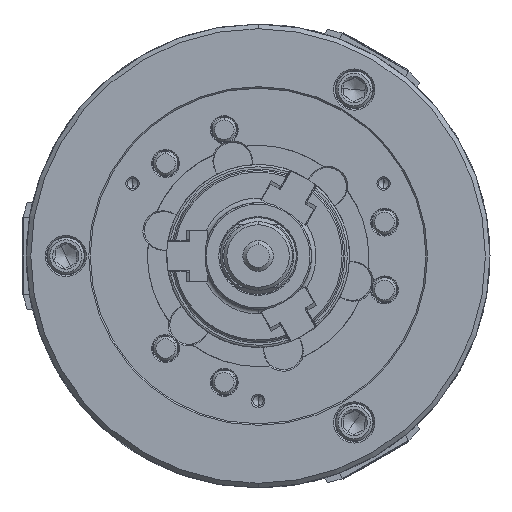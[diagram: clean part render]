
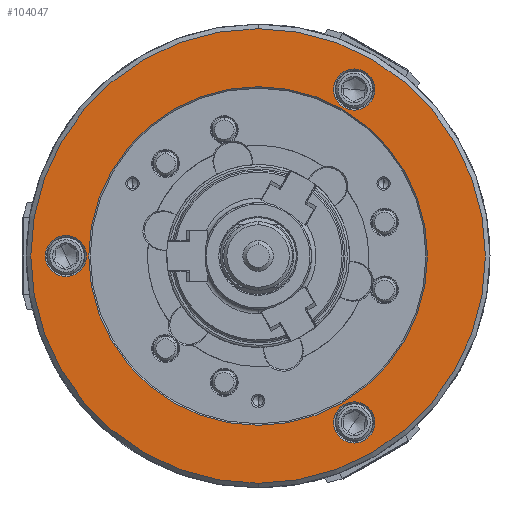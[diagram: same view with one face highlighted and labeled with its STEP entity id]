
A CAD part, left-side view. The second image highlights one B-rep face of the part: STEP entity #104047.
In plain terms, the highlighted planar face has unit normal (-1, 0, 0).
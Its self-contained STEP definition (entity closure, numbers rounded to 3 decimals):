
#5730 = DIRECTION ( 'NONE',  ( 1., 0., 0. ) ) ;
#6084 = CIRCLE ( 'NONE', #12175, 13.5 ) ;
#6868 = FACE_BOUND ( 'NONE', #37549, .T. ) ;
#7015 = VERTEX_POINT ( 'NONE', #10057 ) ;
#9715 = VERTEX_POINT ( 'NONE', #41193 ) ;
#9966 = DIRECTION ( 'NONE',  ( 0., 0., -1. ) ) ;
#10057 = CARTESIAN_POINT ( 'NONE',  ( -106., -63., 95.619 ) ) ;
#10451 = AXIS2_PLACEMENT_3D ( 'NONE', #76447, #18895, #66308 ) ;
#11210 = DIRECTION ( 'NONE',  ( 1., 0., 0. ) ) ;
#11828 = DIRECTION ( 'NONE',  ( 0., 0., -1. ) ) ;
#12175 = AXIS2_PLACEMENT_3D ( 'NONE', #43099, #52576, #91190 ) ;
#14555 = CARTESIAN_POINT ( 'NONE',  ( -106., 0., -149. ) ) ;
#16998 = VERTEX_POINT ( 'NONE', #14555 ) ;
#18895 = DIRECTION ( 'NONE',  ( 1., 0., 0. ) ) ;
#18937 = CIRCLE ( 'NONE', #89665, 111. ) ;
#20281 = AXIS2_PLACEMENT_3D ( 'NONE', #107385, #49792, #67521 ) ;
#21748 = DIRECTION ( 'NONE',  ( 1., 0., 0. ) ) ;
#22091 = AXIS2_PLACEMENT_3D ( 'NONE', #37840, #76409, #47928 ) ;
#23633 = EDGE_LOOP ( 'NONE', ( #83461, #113835 ) ) ;
#25178 = CARTESIAN_POINT ( 'NONE',  ( -106., 0., 0. ) ) ;
#25844 = FACE_BOUND ( 'NONE', #23633, .T. ) ;
#26118 = AXIS2_PLACEMENT_3D ( 'NONE', #32674, #11210, #11828 ) ;
#27027 = VERTEX_POINT ( 'NONE', #75349 ) ;
#30090 = CIRCLE ( 'NONE', #22091, 149. ) ;
#30312 = CIRCLE ( 'NONE', #62617, 13.5 ) ;
#30327 = AXIS2_PLACEMENT_3D ( 'NONE', #62725, #51992, #90607 ) ;
#32674 = CARTESIAN_POINT ( 'NONE',  ( -106., -63., -109.119 ) ) ;
#33477 = DIRECTION ( 'NONE',  ( 1., 0., 0. ) ) ;
#36365 = EDGE_CURVE ( 'NONE', #27027, #104130, #52413, .T. ) ;
#37152 = EDGE_CURVE ( 'NONE', #85684, #9715, #6084, .T. ) ;
#37286 = EDGE_CURVE ( 'NONE', #104130, #27027, #30312, .T. ) ;
#37549 = EDGE_LOOP ( 'NONE', ( #117118, #66896 ) ) ;
#37840 = CARTESIAN_POINT ( 'NONE',  ( -106., 0., 0. ) ) ;
#39481 = DIRECTION ( 'NONE',  ( 0., 0., -1. ) ) ;
#41193 = CARTESIAN_POINT ( 'NONE',  ( -106., 126., -13.5 ) ) ;
#42480 = CIRCLE ( 'NONE', #113212, 149. ) ;
#43099 = CARTESIAN_POINT ( 'NONE',  ( -106., 126., 0. ) ) ;
#44781 = DIRECTION ( 'NONE',  ( 0., 0., -1. ) ) ;
#47928 = DIRECTION ( 'NONE',  ( 0., 0., -1. ) ) ;
#48562 = EDGE_CURVE ( 'NONE', #106189, #88643, #106676, .T. ) ;
#49792 = DIRECTION ( 'NONE',  ( 1., 0., 0. ) ) ;
#50433 = VERTEX_POINT ( 'NONE', #123773 ) ;
#51992 = DIRECTION ( 'NONE',  ( 1., 0., 0. ) ) ;
#52399 = EDGE_CURVE ( 'NONE', #88643, #106189, #18937, .T. ) ;
#52413 = CIRCLE ( 'NONE', #26118, 13.5 ) ;
#52576 = DIRECTION ( 'NONE',  ( 1., 0., 0. ) ) ;
#55569 = PLANE ( 'NONE',  #10451 ) ;
#56145 = EDGE_CURVE ( 'NONE', #50433, #16998, #42480, .T. ) ;
#56212 = EDGE_CURVE ( 'NONE', #65329, #7015, #74764, .T. ) ;
#62617 = AXIS2_PLACEMENT_3D ( 'NONE', #103780, #94305, #9966 ) ;
#62725 = CARTESIAN_POINT ( 'NONE',  ( -106., -63., 109.119 ) ) ;
#65329 = VERTEX_POINT ( 'NONE', #83044 ) ;
#65781 = CARTESIAN_POINT ( 'NONE',  ( -106., 0., 0. ) ) ;
#66308 = DIRECTION ( 'NONE',  ( 0., 0., -1. ) ) ;
#66896 = ORIENTED_EDGE ( 'NONE', *, *, #79724, .T. ) ;
#67210 = ORIENTED_EDGE ( 'NONE', *, *, #48562, .T. ) ;
#67246 = EDGE_CURVE ( 'NONE', #16998, #50433, #30090, .T. ) ;
#67521 = DIRECTION ( 'NONE',  ( 0., 0., -1. ) ) ;
#69414 = ORIENTED_EDGE ( 'NONE', *, *, #36365, .T. ) ;
#70541 = CARTESIAN_POINT ( 'NONE',  ( -106., 126., 13.5 ) ) ;
#70782 = CIRCLE ( 'NONE', #76871, 13.5 ) ;
#72736 = CIRCLE ( 'NONE', #30327, 13.5 ) ;
#74530 = FACE_OUTER_BOUND ( 'NONE', #115555, .T. ) ;
#74764 = CIRCLE ( 'NONE', #20281, 13.5 ) ;
#75349 = CARTESIAN_POINT ( 'NONE',  ( -106., -63., -95.619 ) ) ;
#76409 = DIRECTION ( 'NONE',  ( 1., 0., 0. ) ) ;
#76447 = CARTESIAN_POINT ( 'NONE',  ( -106., -111., 0. ) ) ;
#76871 = AXIS2_PLACEMENT_3D ( 'NONE', #110691, #33477, #101177 ) ;
#77425 = CARTESIAN_POINT ( 'NONE',  ( -106., 0., 0. ) ) ;
#79724 = EDGE_CURVE ( 'NONE', #9715, #85684, #70782, .T. ) ;
#80185 = ORIENTED_EDGE ( 'NONE', *, *, #37286, .T. ) ;
#83044 = CARTESIAN_POINT ( 'NONE',  ( -106., -63., 122.619 ) ) ;
#83461 = ORIENTED_EDGE ( 'NONE', *, *, #56212, .T. ) ;
#83696 = ORIENTED_EDGE ( 'NONE', *, *, #56145, .F. ) ;
#83898 = EDGE_LOOP ( 'NONE', ( #69414, #80185 ) ) ;
#84427 = AXIS2_PLACEMENT_3D ( 'NONE', #65781, #5730, #84777 ) ;
#84777 = DIRECTION ( 'NONE',  ( 0., 0., -1. ) ) ;
#85684 = VERTEX_POINT ( 'NONE', #70541 ) ;
#85959 = EDGE_LOOP ( 'NONE', ( #101112, #67210 ) ) ;
#88643 = VERTEX_POINT ( 'NONE', #105954 ) ;
#89446 = CARTESIAN_POINT ( 'NONE',  ( -106., 0., -111. ) ) ;
#89665 = AXIS2_PLACEMENT_3D ( 'NONE', #77425, #21748, #39481 ) ;
#90607 = DIRECTION ( 'NONE',  ( 0., 0., -1. ) ) ;
#91190 = DIRECTION ( 'NONE',  ( 0., 0., -1. ) ) ;
#93561 = FACE_BOUND ( 'NONE', #83898, .T. ) ;
#94305 = DIRECTION ( 'NONE',  ( 1., 0., 0. ) ) ;
#97182 = ORIENTED_EDGE ( 'NONE', *, *, #67246, .F. ) ;
#97315 = CARTESIAN_POINT ( 'NONE',  ( -106., -63., -122.619 ) ) ;
#99848 = EDGE_CURVE ( 'NONE', #7015, #65329, #72736, .T. ) ;
#101112 = ORIENTED_EDGE ( 'NONE', *, *, #52399, .T. ) ;
#101177 = DIRECTION ( 'NONE',  ( 0., 0., -1. ) ) ;
#102378 = DIRECTION ( 'NONE',  ( 1., 0., 0. ) ) ;
#103665 = FACE_BOUND ( 'NONE', #85959, .T. ) ;
#103780 = CARTESIAN_POINT ( 'NONE',  ( -106., -63., -109.119 ) ) ;
#104047 = ADVANCED_FACE ( 'NONE', ( #25844, #93561, #6868, #74530, #103665 ), #55569, .F. ) ;
#104130 = VERTEX_POINT ( 'NONE', #97315 ) ;
#105954 = CARTESIAN_POINT ( 'NONE',  ( -106., 0., 111. ) ) ;
#106189 = VERTEX_POINT ( 'NONE', #89446 ) ;
#106676 = CIRCLE ( 'NONE', #84427, 111. ) ;
#107385 = CARTESIAN_POINT ( 'NONE',  ( -106., -63., 109.119 ) ) ;
#110691 = CARTESIAN_POINT ( 'NONE',  ( -106., 126., 0. ) ) ;
#113212 = AXIS2_PLACEMENT_3D ( 'NONE', #25178, #102378, #44781 ) ;
#113835 = ORIENTED_EDGE ( 'NONE', *, *, #99848, .T. ) ;
#115555 = EDGE_LOOP ( 'NONE', ( #97182, #83696 ) ) ;
#117118 = ORIENTED_EDGE ( 'NONE', *, *, #37152, .T. ) ;
#123773 = CARTESIAN_POINT ( 'NONE',  ( -106., 0., 149. ) ) ;
